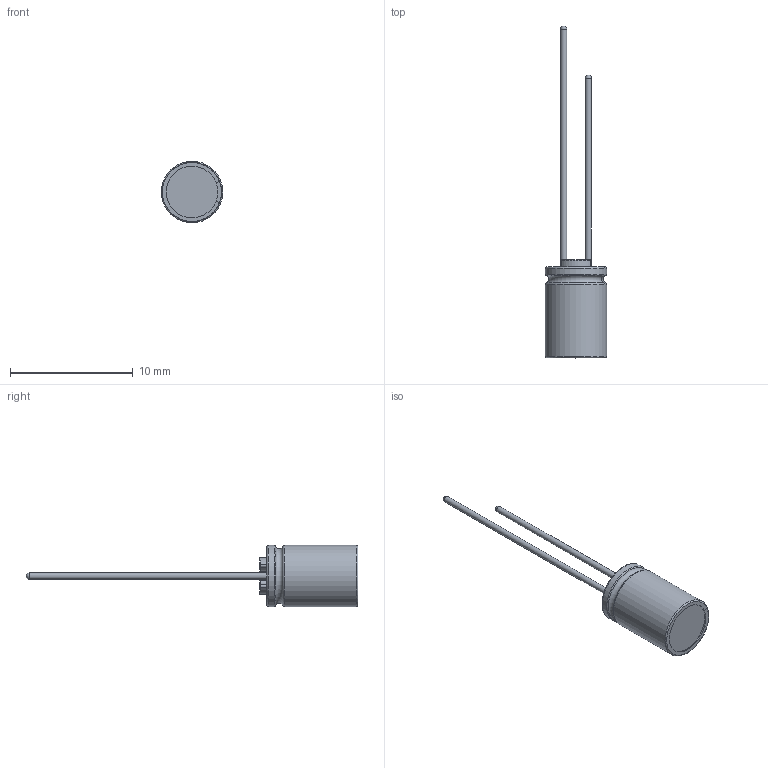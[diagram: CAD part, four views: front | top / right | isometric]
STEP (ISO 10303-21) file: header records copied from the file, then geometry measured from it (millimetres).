
FILE_DESCRIPTION(/* description */ (''),/* implementation_level */ '2;1');
FILE_NAME(/* name */ '5x8_Lead.stp',/* time_stamp */ '2017-09-05T13:35:23+09:00',/* author */ (''),/* organization */ (''),/* preprocessor_version */ 'ST-DEVELOPER v16',/* originating_system */ 'SIEMENS PLM Software NX 11.0',/* authorisation */ '');
FILE_SCHEMA (('AUTOMOTIVE_DESIGN { 1 0 10303 214 3 1 1 1 }'));
Length unit declared in the file: millimetre
Products named in the file (1): 5x8_Lead_0
Bounding box: 4.99 x 27 x 5 mm (x, y, z)
Volume: 149.8 mm3; surface area: 465.9 mm2
Topology: 3 solids, 3 shells, 79 faces, 196 edges, 125 vertices
Faces by surface type: cylinder 32, torus 27, plane 18, sphere 2
Full cylindrical faces by diameter (mm): 0.5 x2, 4.8 x2
Entity records: 2654 total; most frequent: DIRECTION 466, CARTESIAN_POINT 384, ORIENTED_EDGE 368, AXIS2_PLACEMENT_3D 202, EDGE_CURVE 184, CIRCLE 122, VERTEX_POINT 120, EDGE_LOOP 88
